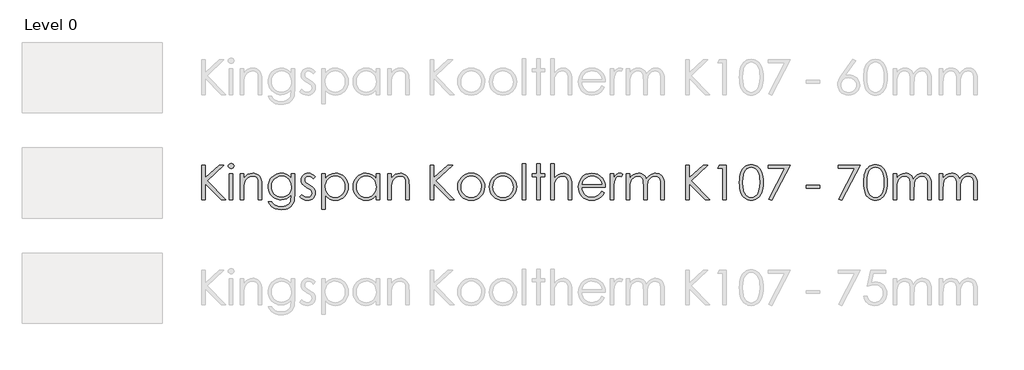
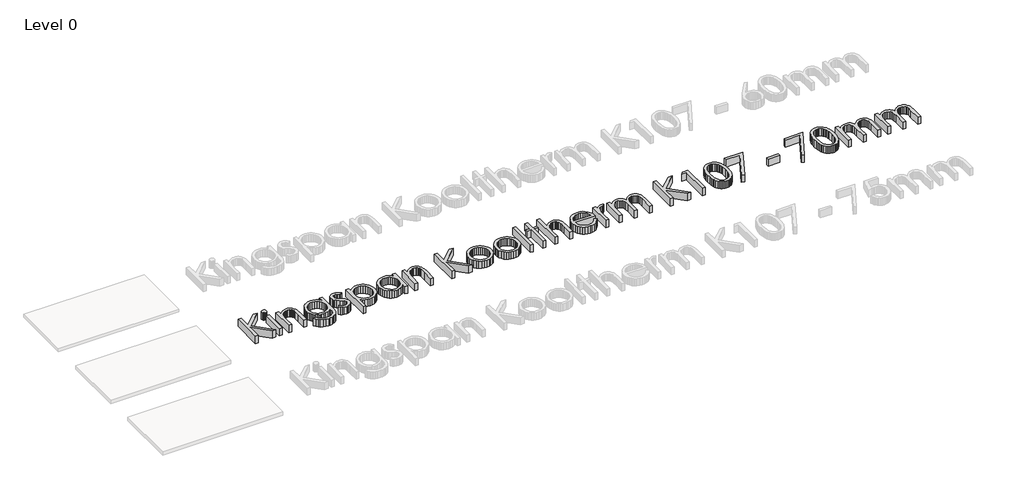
# One storey, part 9 of 13: 1 proxy.
"""IFC4 building model written with IfcOpenShell, lengths in millimetres."""

from ifc_helpers import new_model, si_unit, origin, origin_with_axes, place, context, project, spatial, polyline, outline, extrude, element, save

model = new_model("IFC4")

# Units and contexts
model_context = context("Model", 3, world=origin())
ifc_project = project(units=[si_unit("LENGTHUNIT", "METRE", prefix="MILLI")], contexts=[model_context])

# Site, building, storey
site = spatial("IfcSite", under=ifc_project)
building = spatial("IfcBuilding", under=site)
storey = spatial("IfcBuildingStorey", under=building, Name="Level 0", Elevation=0.0)

# Proxy
placement = place(None, origin())
element("IfcBuildingElementProxy", 1, Name="600mm KI_CenturyGothic", ObjectType="600mm KI_CenturyGothic", at=placement, inside=storey, context=model_context, shape_type="SweptSolid", body=[
    extrude(outline(polyline([(-3852.2663848, -1299.1034017), (-3792.944575, -1299.1034017), (-3792.944575, -1518.316027), (-3555.1938841, -1299.1034017), (-3471.6181051, -1299.1034017), (-3760.9664119, -1566.0515459), (-3441.9572002, -1892.3214999), (-3520.8984627, -1892.3214999), (-3792.944575, -1614.0960325), (-3792.944575, -1892.3214999), (-3852.2663848, -1892.3214999), (-3852.2663848, -1299.1034017)])), origin_with_axes(), (0.0, 0.0, 1.0), 150.0),
    extrude(outline(polyline([(-3348.1854852, -1269.4424967), (-3329.145347, -1272.7252792), (-3313.1176445, -1282.5736265), (-3302.226531, -1297.0178693), (-3298.5961598, -1314.088338), (-3302.226531, -1330.9270809), (-3313.1176445, -1345.2940817), (-3329.145347, -1355.142429), (-3348.1854852, -1358.4252115), (-3366.9938975, -1355.142429), (-3382.9443581, -1345.2940817), (-3393.8354717, -1330.9270809), (-3397.4658428, -1314.088338), (-3393.8354717, -1297.0178693), (-3382.9443581, -1282.5736265), (-3366.9938975, -1272.7252792), (-3348.1854852, -1269.4424967)])), origin_with_axes(), (0.0, 0.0, 1.0), 150.0),
    extrude(outline(polyline([(-3377.6919062, -1447.4079262), (-3318.3700964, -1447.4079262), (-3318.3700964, -1892.3214999), (-3377.6919062, -1892.3214999), (-3377.6919062, -1447.4079262)])), origin_with_axes(), (0.0, 0.0, 1.0), 150.0),
    extrude(outline(polyline([(-3189.8395084, -1447.4079262), (-3130.5176986, -1447.4079262), (-3130.5176986, -1526.5036726), (-3096.9946967, -1486.9944204), (-3060.0730495, -1459.303185), (-3019.7141359, -1442.9665147), (-2975.879335, -1437.5209579), (-2953.4357238, -1439.0995901), (-2932.2955704, -1443.8354865), (-2912.4588747, -1451.7286472), (-2893.9256368, -1462.7790723), (-2877.212412, -1476.5039994), (-2862.835756, -1492.4206667), (-2841.0921499, -1530.8292213), (-2833.6238199, -1555.2087086), (-2828.2892984, -1585.5551357), (-2824.0216812, -1664.1488095), (-2824.0216812, -1892.3214999), (-2883.343491, -1892.3214999), (-2883.343491, -1679.1337458), (-2883.343491, -1576.092998), (-2884.7290183, -1555.2956057), (-2889.8125035, -1537.2403023), (-2898.2849788, -1521.9270877), (-2910.1464442, -1509.355962), (-2924.7403432, -1499.5558909), (-2941.4101193, -1492.5558401), (-2980.977303, -1486.9557994), (-3005.3471351, -1489.1137461), (-3028.4038541, -1495.5875862), (-3050.1474602, -1506.3773197), (-3070.5779533, -1521.4829466), (-3088.6622225, -1539.7651482), (-3103.3671568, -1560.084606), (-3114.6927562, -1582.44132), (-3122.6390208, -1606.8352901), (-3128.5480292, -1653.9142525), (-3130.5176986, -1728.4141035), (-3130.5176986, -1892.3214999), (-3189.8395084, -1892.3214999), (-3189.8395084, -1447.4079262)])), origin_with_axes(), (0.0, 0.0, 1.0), 150.0),
    extrude(outline(polyline([(-2319.7862977, -1447.4079262), (-2260.4644879, -1447.4079262), (-2260.4644879, -1798.395301), (-2264.5196897, -1878.6496765), (-2269.588692, -1909.4499001), (-2276.6852953, -1934.0321474), (-2289.9371156, -1962.6454585), (-2307.2924139, -1987.7732271), (-2328.7511904, -2009.4154531), (-2354.3134448, -2027.5721366), (-2383.3226209, -2041.9343098), (-2415.122162, -2052.1930049), (-2449.7120682, -2058.348222), (-2487.0923395, -2060.3999611), (-2541.0458345, -2056.3833802), (-2589.206184, -2044.3336376), (-2630.260275, -2025.5059147), (-2662.8949946, -2001.1553932), (-2690.2000204, -1967.8061856), (-2715.2650299, -1921.9824048), (-2655.94322, -1921.9824048), (-2642.4355358, -1943.151524), (-2627.0933555, -1961.3951046), (-2609.9166791, -1976.7131468), (-2590.9055067, -1989.1056506), (-2569.7894914, -1998.6691682), (-2546.2982864, -2005.5002523), (-2492.1903075, -2010.9651195), (-2438.5071593, -2005.6354257), (-2415.083541, -1998.9733084), (-2393.93856, -1989.6463441), (-2359.6624492, -1965.6047903), (-2336.8567664, -1936.1176798), (-2329.3884364, -1917.4782342), (-2324.0539149, -1893.7697863), (-2319.7862977, -1831.1458835), (-2319.7862977, -1808.4367532), (-2354.757586, -1844.2190818), (-2396.6420279, -1870.6165148), (-2443.392712, -1886.8952536), (-2492.9627269, -1892.3214999), (-2522.4063889, -1890.4242447), (-2550.9521133, -1884.7324793), (-2578.5999001, -1875.2462036), (-2605.3497494, -1861.9654175), (-2630.1540674, -1845.4742634), (-2651.9652601, -1826.3568832), (-2670.7833277, -1804.6132772), (-2686.6082702, -1780.2434451), (-2699.1456025, -1753.9280817), (-2708.1008399, -1726.3478816), (-2713.4739824, -1697.5028447), (-2715.2650299, -1667.392971), (-2713.3967404, -1637.1044753), (-2707.7918722, -1607.8780563), (-2698.4504251, -1579.713714), (-2685.3723991, -1552.6114483), (-2668.9971079, -1527.4257483), (-2649.7638648, -1505.0111029), (-2627.67267, -1485.367512), (-2602.7235235, -1468.4949758), (-2575.9833294, -1454.943843), (-2548.5189922, -1445.2644624), (-2520.3305117, -1439.456834), (-2491.4178881, -1437.5209579), (-2444.5320306, -1442.4644421), (-2400.8903346, -1457.2948945), (-2359.6045177, -1483.8661218), (-2319.7862977, -1524.0319306), (-2319.7862977, -1447.4079262)]), holes=[polyline([(-2484.1571458, -1486.9557994), (-2529.0154023, -1492.9806707), (-2570.5908765, -1511.0552847), (-2606.2187212, -1539.7699758), (-2633.2340897, -1577.7150788), (-2650.2659375, -1621.9940208), (-2655.94322, -1669.7102292), (-2653.0080263, -1705.6229036), (-2644.2024452, -1738.2817613), (-2629.5264766, -1767.6868023), (-2608.9801206, -1793.8380266), (-2583.7606272, -1815.296803), (-2555.0652466, -1830.6245004), (-2522.8939786, -1839.8211189), (-2487.2468234, -1842.8866584), (-2451.3244937, -1839.845257), (-2419.1001219, -1830.7210528), (-2390.573708, -1815.5140459), (-2365.7452519, -1794.2242363), (-2345.6382095, -1767.9812872), (-2331.2760363, -1737.9148621), (-2322.6587323, -1704.024961), (-2319.7862977, -1666.3115838), (-2325.0773706, -1617.6105407), (-2340.9505892, -1574.3936754), (-2366.4983608, -1538.1672056), (-2400.8130926, -1510.4373492), (-2440.9982119, -1492.8261869), (-2484.1571458, -1486.9557994)])]), origin_with_axes(), (0.0, 0.0, 1.0), 150.0),
    extrude(outline(polyline([(-1904.5336289, -1498.6965743), (-1940.9918246, -1536.390641), (-1962.9575012, -1514.7628978), (-1984.6721416, -1499.3145098), (-2006.1357456, -1490.045477), (-2027.3483133, -1486.9557994), (-2052.181597, -1491.6289368), (-2073.2300256, -1505.6483489), (-2087.5970264, -1525.8857371), (-2092.3860267, -1549.212803), (-2088.4466878, -1570.7633042), (-2076.628671, -1591.2324183), (-2052.0657341, -1613.400855), (-2010.2006027, -1639.122421), (-1958.3326401, -1671.9888664), (-1939.8428507, -1687.8138088), (-1926.315856, -1703.2332311), (-1909.9791857, -1735.9065716), (-1904.5336289, -1772.4420092), (-1906.9474396, -1798.5884059), (-1914.1888714, -1822.6492701), (-1926.2579245, -1844.624602), (-1943.1545989, -1864.5144015), (-1963.6719892, -1881.0055557), (-1986.6031901, -1892.7849515), (-2011.9482016, -1899.852589), (-2039.7070237, -1902.2084682), (-2077.4397114, -1898.3270607), (-2113.3958344, -1886.6828383), (-2145.4512394, -1868.2027042), (-2171.4817731, -1843.8135617), (-2135.7959969, -1803.3387852), (-2114.0041146, -1824.9665283), (-2091.5749863, -1840.4149163), (-2068.5086121, -1849.6839491), (-2044.8049918, -1852.7736267), (-2013.637869, -1847.1349651), (-1987.4914724, -1830.2189802), (-1969.7644472, -1805.6560434), (-1963.8554388, -1777.0765256), (-1967.7561567, -1753.2860081), (-1979.4583106, -1732.2762005), (-2005.0253927, -1710.5712154), (-2050.2119275, -1683.7682622), (-2099.762632, -1653.1032121), (-2117.441381, -1637.9444814), (-2130.3890611, -1622.9016136), (-2146.3781427, -1590.7689666), (-2151.7078365, -1554.310771), (-2149.5305794, -1530.2643896), (-2142.9988078, -1508.3325063), (-2132.1125219, -1488.5151211), (-2116.8717217, -1470.812234), (-2098.309518, -1456.2473007), (-2077.4590218, -1445.8437769), (-2054.3202332, -1439.6016627), (-2028.8931521, -1437.5209579), (-1997.9481, -1441.3444339), (-1966.9064954, -1452.814862), (-1935.7683384, -1471.9322421), (-1904.5336289, -1498.6965743)])), origin_with_axes(), (0.0, 0.0, 1.0), 150.0),
    extrude(outline(polyline([(-1795.7769776, -1447.4079262), (-1736.4551678, -1447.4079262), (-1736.4551678, -1528.5119631), (-1700.9238754, -1488.2689124), (-1660.4490989, -1459.9211205), (-1614.9922173, -1443.1209986), (-1564.5146096, -1437.5209579), (-1520.0618732, -1441.7596094), (-1478.9305402, -1454.4755637), (-1441.1206107, -1475.668821), (-1406.6320845, -1505.3393811), (-1377.9077381, -1540.9768811), (-1357.3903478, -1580.070958), (-1345.0799137, -1622.6216116), (-1340.9764356, -1668.628842), (-1345.0412927, -1715.5291824), (-1357.235864, -1758.7508754), (-1377.5601494, -1798.293921), (-1406.014149, -1834.1583192), (-1440.2130179, -1863.9302594), (-1477.7719111, -1885.1959309), (-1518.6908288, -1897.9553339), (-1562.9697708, -1902.2084682), (-1612.6170277, -1896.743601), (-1658.0545988, -1880.3489992), (-1699.3211052, -1853.1019049), (-1736.4551678, -1815.07956), (-1736.4551678, -2050.5129928), (-1795.7769776, -2050.5129928), (-1795.7769776, -1447.4079262)]), holes=[polyline([(-1568.5311905, -1486.9557994), (-1602.5852307, -1490.2530647), (-1633.8392507, -1500.1448607), (-1662.2932503, -1516.6311872), (-1687.9472295, -1539.7120444), (-1709.1694525, -1567.6977647), (-1724.3281832, -1598.8986808), (-1733.4234216, -1633.3147926), (-1736.4551678, -1670.9461002), (-1731.048232, -1719.8016272), (-1714.8274246, -1763.4819442), (-1688.5265441, -1800.3263495), (-1652.8793888, -1828.6741414), (-1611.4390881, -1846.7487554), (-1567.7587711, -1852.7736267), (-1525.0632888, -1846.7101344), (-1485.0326535, -1828.5196576), (-1450.2544701, -1799.4187567), (-1423.3163435, -1760.6239924), (-1406.05277, -1715.9588407), (-1400.2982454, -1669.2467775), (-1405.9948385, -1622.3029886), (-1423.0846177, -1577.8695627), (-1449.8103289, -1539.5189395), (-1484.414718, -1510.8235589), (-1524.7157001, -1492.9227393), (-1568.5311905, -1486.9557994)])]), origin_with_axes(), (0.0, 0.0, 1.0), 150.0),
    extrude(outline(polyline([(-807.0801472, -1447.4079262), (-807.0801472, -1892.3214999), (-866.401957, -1892.3214999), (-866.401957, -1816.4699149), (-903.4780882, -1854.3184655), (-944.8797679, -1881.0441767), (-990.4525125, -1896.9173953), (-1040.0418379, -1902.2084682), (-1084.3159523, -1897.9553339), (-1125.2203871, -1885.1959309), (-1162.7551422, -1863.9302594), (-1196.9202178, -1834.1583192), (-1225.340424, -1798.293921), (-1245.6405713, -1758.7508754), (-1257.8206597, -1715.5291824), (-1261.8806892, -1668.628842), (-1257.7820388, -1622.6216116), (-1245.4860875, -1580.070958), (-1224.9928353, -1540.9768811), (-1196.3022822, -1505.3393811), (-1161.8475494, -1475.668821), (-1124.061758, -1454.4755637), (-1082.9449079, -1441.7596094), (-1038.4969991, -1437.5209579), (-987.7490446, -1443.1209986), (-942.0990581, -1459.9211205), (-921.2051134, -1472.6081091), (-901.6242816, -1488.2689124), (-866.401957, -1528.5119631), (-866.401957, -1447.4079262), (-807.0801472, -1447.4079262)]), holes=[polyline([(-1034.3259343, -1486.9557994), (-1078.1414247, -1492.9227393), (-1118.4424068, -1510.8235589), (-1153.0467959, -1539.5189395), (-1179.7725071, -1577.8695627), (-1196.8622863, -1622.3029886), (-1202.5588794, -1669.2467775), (-1196.8043548, -1715.9588407), (-1179.5407813, -1760.6239924), (-1152.6026548, -1799.4187567), (-1117.8244713, -1828.5196576), (-1077.6779731, -1846.7101344), (-1034.6349021, -1852.7736267), (-991.0125165, -1846.7487554), (-949.7460102, -1828.6741414), (-914.2726493, -1800.3263495), (-888.0297002, -1763.4819442), (-871.8088928, -1719.8016272), (-866.401957, -1670.9461002), (-869.4337032, -1633.3147926), (-878.5289416, -1598.8986808), (-893.6876723, -1567.6977647), (-914.9098953, -1539.7120444), (-940.5638746, -1516.6311872), (-969.0178742, -1500.1448607), (-1000.2718941, -1490.2530647), (-1034.3259343, -1486.9557994)])]), origin_with_axes(), (0.0, 0.0, 1.0), 150.0),
    extrude(outline(polyline([(-668.662591, -1447.4079262), (-609.3407811, -1447.4079262), (-609.3407811, -1526.5036726), (-575.8177792, -1486.9944204), (-538.896132, -1459.303185), (-498.5372184, -1442.9665147), (-454.7024175, -1437.5209579), (-432.2588064, -1439.0995901), (-411.1186529, -1443.8354865), (-391.2819572, -1451.7286472), (-372.7487193, -1462.7790723), (-356.0354946, -1476.5039994), (-341.6588385, -1492.4206667), (-319.9152324, -1530.8292213), (-312.4469024, -1555.2087086), (-307.1123809, -1585.5551357), (-302.8447637, -1664.1488095), (-302.8447637, -1892.3214999), (-362.1665735, -1892.3214999), (-362.1665735, -1679.1337458), (-362.1665735, -1576.092998), (-363.5521008, -1555.2956057), (-368.635586, -1537.2403023), (-377.1080613, -1521.9270877), (-388.9695267, -1509.355962), (-403.5634257, -1499.5558909), (-420.2332018, -1492.5558401), (-459.8003855, -1486.9557994), (-484.1702176, -1489.1137461), (-507.2269366, -1495.5875862), (-528.9705427, -1506.3773197), (-549.4010358, -1521.4829466), (-567.485305, -1539.7651482), (-582.1902393, -1560.084606), (-593.5158387, -1582.44132), (-601.4621033, -1606.8352901), (-607.3711117, -1653.9142525), (-609.3407811, -1728.4141035), (-609.3407811, -1892.3214999), (-668.662591, -1892.3214999), (-668.662591, -1447.4079262)])), origin_with_axes(), (0.0, 0.0, 1.0), 150.0),
    extrude(outline(polyline([(62.9730635, -1299.1034017), (122.2948734, -1299.1034017), (122.2948734, -1518.316027), (360.0455643, -1299.1034017), (443.6213432, -1299.1034017), (154.2730365, -1566.0515459), (473.2822481, -1892.3214999), (394.3409856, -1892.3214999), (122.2948734, -1614.0960325), (122.2948734, -1892.3214999), (62.9730635, -1892.3214999), (62.9730635, -1299.1034017)])), origin_with_axes(), (0.0, 0.0, 1.0), 150.0),
    extrude(outline(polyline([(760.1588128, -1437.5209579), (809.4681362, -1442.1458191), (854.3553585, -1456.0204025), (894.8204798, -1479.1447083), (930.8635, -1511.5187363), (957.7630055, -1546.7507161), (976.9769381, -1585.091684), (988.5052976, -1626.54164), (992.3480841, -1671.1005841), (988.283227, -1715.9153921), (976.0886558, -1757.8239721), (955.7643703, -1796.8263241), (927.3103707, -1832.9224481), (892.4742558, -1863.2350819), (853.0036246, -1884.8869632), (808.8984769, -1897.8780919), (760.1588128, -1902.2084682), (711.2839754, -1897.8780919), (667.0822753, -1884.8869632), (627.5537126, -1863.2350819), (592.6982872, -1832.9224481), (564.2442876, -1796.8263241), (543.9200022, -1757.8239721), (531.7254309, -1715.9153921), (527.6605738, -1671.1005841), (531.5033603, -1626.7347449), (543.0317198, -1585.4006518), (562.2456524, -1547.0983049), (589.145158, -1511.8277041), (625.2074886, -1479.3185026), (665.7305413, -1456.0976445), (710.7143161, -1442.1651295), (760.1588128, -1437.5209579)]), holes=[polyline([(760.004329, -1486.9557994), (725.7282181, -1490.3303067), (693.9624704, -1500.4538284), (664.7070856, -1517.3263647), (637.962064, -1540.9479154), (615.6584538, -1569.3584664), (599.7273037, -1600.5980035), (590.1686137, -1634.6665266), (586.9823836, -1671.5640357), (592.7948396, -1719.2995546), (610.2322075, -1763.6364281), (637.5758543, -1801.4270471), (673.1071466, -1829.5238028), (714.6439998, -1846.9611707), (760.004329, -1852.7736267), (805.3646581, -1846.9611707), (846.9015113, -1829.5238028), (882.4328037, -1801.4270471), (909.7764504, -1763.6364281), (927.2138183, -1719.2995546), (933.0262743, -1671.5640357), (929.8255614, -1634.6665266), (920.2234227, -1600.5980035), (904.2198583, -1569.3584664), (881.8148681, -1540.9479154), (854.9974321, -1517.3263647), (825.7565303, -1500.4538284), (794.0921625, -1490.3303067), (760.004329, -1486.9557994)])]), origin_with_axes(), (0.0, 0.0, 1.0), 150.0),
    extrude(outline(polyline([(1303.9420695, -1437.5209579), (1353.2513929, -1442.1458191), (1398.1386152, -1456.0204025), (1438.6037365, -1479.1447083), (1474.6467567, -1511.5187363), (1501.5462622, -1546.7507161), (1520.7601948, -1585.091684), (1532.2885543, -1626.54164), (1536.1313408, -1671.1005841), (1532.0664837, -1715.9153921), (1519.8719125, -1757.8239721), (1499.547627, -1796.8263241), (1471.0936274, -1832.9224481), (1436.2575126, -1863.2350819), (1396.7868813, -1884.8869632), (1352.6817336, -1897.8780919), (1303.9420695, -1902.2084682), (1255.0672321, -1897.8780919), (1210.865532, -1884.8869632), (1171.3369693, -1863.2350819), (1136.4815439, -1832.9224481), (1108.0275443, -1796.8263241), (1087.7032589, -1757.8239721), (1075.5086876, -1715.9153921), (1071.4438305, -1671.1005841), (1075.286617, -1626.7347449), (1086.8149766, -1585.4006518), (1106.0289091, -1547.0983049), (1132.9284147, -1511.8277041), (1168.9907453, -1479.3185026), (1209.5137981, -1456.0976445), (1254.4975728, -1442.1651295), (1303.9420695, -1437.5209579)]), holes=[polyline([(1303.7875857, -1486.9557994), (1269.5114748, -1490.3303067), (1237.7457271, -1500.4538284), (1208.4903423, -1517.3263647), (1181.7453207, -1540.9479154), (1159.4417105, -1569.3584664), (1143.5105604, -1600.5980035), (1133.9518704, -1634.6665266), (1130.7656404, -1671.5640357), (1136.5780963, -1719.2995546), (1154.0154643, -1763.6364281), (1181.359111, -1801.4270471), (1216.8904033, -1829.5238028), (1258.4272565, -1846.9611707), (1303.7875857, -1852.7736267), (1349.1479149, -1846.9611707), (1390.684768, -1829.5238028), (1426.2160604, -1801.4270471), (1453.5597071, -1763.6364281), (1470.997075, -1719.2995546), (1476.809531, -1671.5640357), (1473.6088181, -1634.6665266), (1464.0066795, -1600.5980035), (1448.003115, -1569.3584664), (1425.5981249, -1540.9479154), (1398.7806889, -1517.3263647), (1369.539787, -1500.4538284), (1337.8754193, -1490.3303067), (1303.7875857, -1486.9557994)])]), origin_with_axes(), (0.0, 0.0, 1.0), 150.0),
    extrude(outline(polyline([(1635.0010238, -1279.3294651), (1694.3228337, -1279.3294651), (1694.3228337, -1892.3214999), (1635.0010238, -1892.3214999), (1635.0010238, -1279.3294651)])), origin_with_axes(), (0.0, 0.0, 1.0), 150.0),
    extrude(outline(polyline([(1882.1752314, -1279.3294651), (1941.4970413, -1279.3294651), (1941.4970413, -1447.4079262), (2020.5927877, -1447.4079262), (2020.5927877, -1496.8427677), (1941.4970413, -1496.8427677), (1941.4970413, -1892.3214999), (1882.1752314, -1892.3214999), (1882.1752314, -1496.8427677), (1803.079485, -1496.8427677), (1803.079485, -1447.4079262), (1882.1752314, -1447.4079262), (1882.1752314, -1279.3294651)])), origin_with_axes(), (0.0, 0.0, 1.0), 150.0),
    extrude(outline(polyline([(2119.4624707, -1279.3294651), (2178.7842806, -1279.3294651), (2178.7842806, -1528.0485114), (2212.5583188, -1488.3461544), (2249.6151394, -1460.0756044), (2289.9161216, -1443.1596195), (2333.4226442, -1437.5209579), (2355.8662553, -1439.0995901), (2377.0064088, -1443.8354865), (2396.8431044, -1451.7286472), (2415.3763424, -1462.7790723), (2432.0895671, -1476.4895166), (2446.4662232, -1492.3627352), (2468.2098293, -1530.5974955), (2475.6781593, -1554.9045684), (2481.0126808, -1585.2654784), (2485.280298, -1664.1488095), (2485.280298, -1892.3214999), (2425.9584882, -1892.3214999), (2425.9584882, -1679.1337458), (2424.5681332, -1614.752589), (2420.3970685, -1576.092998), (2406.879729, -1537.2403023), (2397.1665551, -1521.9270877), (2385.4837117, -1509.355962), (2371.840854, -1499.5558909), (2356.2476374, -1492.5558401), (2319.2101273, -1486.9557994), (2296.3416854, -1489.1137461), (2274.6994594, -1495.5875862), (2254.2834492, -1506.3773197), (2235.0936547, -1521.4829466), (2218.1052556, -1539.7651482), (2204.2934312, -1560.084606), (2193.6581816, -1582.44132), (2186.1995068, -1606.8352901), (2180.6380871, -1653.6825267), (2178.7842806, -1728.4141035), (2178.7842806, -1892.3214999), (2119.4624707, -1892.3214999), (2119.4624707, -1279.3294651)])), origin_with_axes(), (0.0, 0.0, 1.0), 150.0),
    extrude(outline(polyline([(2991.0605203, -1744.0169753), (3038.950523, -1769.1978477), (3013.3255094, -1811.0822896), (2984.0315038, -1844.0452875), (2950.952643, -1869.1296074), (2913.9730643, -1887.3780157), (2872.4941426, -1898.5008551), (2825.9172528, -1902.2084682), (2774.4258447, -1897.7767119), (2728.8627554, -1884.481443), (2689.227985, -1862.3226615), (2655.5215335, -1831.3003674), (2628.6220279, -1794.6973431), (2609.4080954, -1755.7963712), (2597.8797358, -1714.5974515), (2594.0369493, -1671.1005841), (2597.3197318, -1630.2202874), (2607.1680791, -1591.618628), (2623.5819913, -1555.2956057), (2646.5614684, -1521.2512207), (2682.7493173, -1484.6192308), (2724.5758277, -1458.4535236), (2772.0409998, -1442.7540993), (2825.1448334, -1437.5209579), (2879.7935059, -1442.8892727), (2928.6490329, -1458.9942172), (2971.7114143, -1485.8357913), (3008.9806503, -1523.4139951), (3030.4539096, -1555.585263), (3045.9022976, -1591.541386), (3055.3258143, -1631.2823641), (3058.7244596, -1674.8081972), (2653.3587591, -1674.8081972), (2657.095338, -1712.0629503), (2666.6057518, -1745.8128504), (2681.8900007, -1776.0578975), (2702.9480845, -1802.7980916), (2728.3124066, -1824.6623882), (2756.5153699, -1840.2797429), (2787.5569744, -1849.6501557), (2821.4372203, -1852.7736267), (2854.9602222, -1849.761191), (2887.5563208, -1840.7238841), (2917.2944677, -1826.6851615), (2942.2436143, -1808.668479), (2965.725164, -1782.5027719), (2991.0605203, -1744.0169753)]), holes=[polyline([(2999.4026498, -1625.3733557), (2984.9777175, -1582.8516678), (2965.1844704, -1549.8307385), (2939.0766947, -1524.3022774), (2905.7081767, -1504.257994), (2867.7630738, -1491.2813481), (2827.9255433, -1486.9557994), (2795.503239, -1489.6689226), (2765.4368139, -1497.808292), (2737.726268, -1511.3739077), (2712.3716012, -1530.3657696), (2695.8321708, -1548.179692), (2681.4362043, -1569.9522638), (2669.1837016, -1595.683485), (2659.0746627, -1625.3733557), (2999.4026498, -1625.3733557)])]), origin_with_axes(), (0.0, 0.0, 1.0), 150.0),
    extrude(outline(polyline([(3137.820206, -1447.4079262), (3197.1420159, -1447.4079262), (3197.1420159, -1511.8277041), (3222.6897875, -1478.7874643), (3249.589293, -1455.6728138), (3277.7632906, -1442.0589219), (3307.1345382, -1437.5209579), (3330.4616041, -1441.305813), (3355.3335087, -1452.6603781), (3325.8270877, -1494.6799934), (3297.2475699, -1486.9557994), (3270.8308265, -1492.9034288), (3245.3409863, -1510.7463169), (3223.2884125, -1541.1023993), (3207.183468, -1584.5896114), (3199.6523789, -1642.7141712), (3197.1420159, -1740.1548783), (3197.1420159, -1892.3214999), (3137.820206, -1892.3214999), (3137.820206, -1447.4079262)])), origin_with_axes(), (0.0, 0.0, 1.0), 150.0),
    extrude(outline(polyline([(3414.6553185, -1447.4079262), (3473.9771284, -1447.4079262), (3473.9771284, -1523.5684789), (3503.5607913, -1487.0716623), (3533.9168737, -1461.9294109), (3577.3268439, -1443.6230712), (3622.8995884, -1437.5209579), (3653.7384329, -1440.668567), (3682.9165757, -1450.1113941), (3708.6767627, -1464.7873627), (3729.2617397, -1483.634396), (3746.0425511, -1509.0663047), (3760.3902414, -1543.4968994), (3775.16759, -1519.0981017), (3791.6925376, -1497.808292), (3809.965084, -1479.6274704), (3829.9852293, -1464.5556369), (3851.2798666, -1452.7279648), (3873.375889, -1444.2796277), (3896.2732965, -1439.2106253), (3919.9720892, -1437.5209579), (3962.3006723, -1443.3334139), (3981.4952943, -1450.5989839), (3999.3768034, -1460.7707818), (4015.4914031, -1473.53984), (4029.385297, -1488.5971907), (4050.5109676, -1525.5767694), (4057.8103309, -1548.9521114), (4063.0241619, -1577.5219739), (4067.1952266, -1650.2452603), (4067.1952266, -1892.3214999), (4007.8734168, -1892.3214999), (4007.8734168, -1646.6921311), (4005.4209852, -1585.5744462), (3998.0636904, -1547.1272706), (3984.7587663, -1522.6608861), (3964.4634466, -1503.4855746), (3938.3942919, -1491.0882432), (3907.7678627, -1486.9557994), (3888.1194443, -1488.5054659), (3869.3399976, -1493.1544651), (3834.3880198, -1511.7504621), (3805.6540182, -1540.6968791), (3785.8800816, -1577.9468046), (3779.1889985, -1602.1042213), (3774.4096535, -1633.1747916), (3770.5861775, -1716.0553931), (3770.5861775, -1892.3214999), (3711.2643677, -1892.3214999), (3711.2643677, -1661.9860352), (3708.850557, -1593.530366), (3701.6091252, -1551.2983353), (3688.3621325, -1525.0553863), (3667.9316394, -1504.5669617), (3641.6114484, -1491.35859), (3610.6953619, -1486.9557994), (3573.7544042, -1492.9999812), (3539.2465676, -1511.1325266), (3510.2808401, -1539.499629), (3489.9662099, -1576.2474819), (3477.9743988, -1628.0768236), (3473.9771284, -1701.6883923), (3473.9771284, -1892.3214999), (3414.6553185, -1892.3214999), (3414.6553185, -1447.4079262)])), origin_with_axes(), (0.0, 0.0, 1.0), 150.0),
    extrude(outline(polyline([(4433.0130538, -1299.1034017), (4492.3348637, -1299.1034017), (4492.3348637, -1518.316027), (4730.0855546, -1299.1034017), (4813.6613335, -1299.1034017), (4524.3130268, -1566.0515459), (4843.3222385, -1892.3214999), (4764.3809759, -1892.3214999), (4492.3348637, -1614.0960325), (4492.3348637, -1892.3214999), (4433.0130538, -1892.3214999), (4433.0130538, -1299.1034017)])), origin_with_axes(), (0.0, 0.0, 1.0), 150.0),
    extrude(outline(polyline([(5010.6282802, -1299.1034017), (5125.1008351, -1299.1034017), (5125.1008351, -1892.3214999), (5065.7790253, -1892.3214999), (5065.7790253, -1348.5382432), (4976.7963106, -1348.5382432), (5010.6282802, -1299.1034017)])), origin_with_axes(), (0.0, 0.0, 1.0), 150.0),
    extrude(outline(polyline([(5352.5011061, -1595.8669347), (5354.0797383, -1541.4355052), (5358.8156347, -1493.5406748), (5366.7087954, -1452.1824436), (5377.7592204, -1417.3608116), (5391.6869077, -1387.7192172), (5408.2118552, -1361.9010988), (5427.334063, -1339.9064564), (5449.053531, -1321.73529), (5472.747496, -1307.5082902), (5497.793195, -1297.3461475), (5524.190628, -1291.2488619), (5551.9397949, -1289.2164334), (5580.1427582, -1291.2633448), (5606.974677, -1297.404079), (5632.4355515, -1307.638636), (5656.5253815, -1321.9670159), (5678.7083011, -1340.3843909), (5698.4484443, -1362.8859335), (5715.7458112, -1389.4716437), (5730.6004018, -1420.1415214), (5742.5294539, -1455.6583309), (5751.0502054, -1496.7848363), (5756.1626563, -1543.5210375), (5757.8668066, -1595.8669347), (5756.1867944, -1648.0535203), (5751.1467578, -1694.6207548), (5742.7466968, -1735.5686382), (5730.9866115, -1770.8971704), (5716.2768496, -1801.4222195), (5699.0277589, -1827.9596535), (5679.2393394, -1850.5094723), (5656.9115912, -1869.071676), (5632.6527944, -1883.5690226), (5607.0712295, -1893.9242701), (5580.1668963, -1900.1374187), (5551.9397949, -1902.2084682), (5524.2147661, -1900.2001778), (5497.8897474, -1894.1753064), (5472.964739, -1884.1338543), (5449.4397407, -1870.0758212), (5427.8651013, -1852.0398282), (5408.7911698, -1830.0644964), (5392.2179461, -1804.1498255), (5378.1454301, -1774.2958158), (5366.9260384, -1739.2762513), (5358.9121871, -1697.8649163), (5354.1038764, -1650.0618107), (5352.5011061, -1595.8669347)]), holes=[polyline([(5411.8229159, -1595.7124508), (5416.206396, -1684.038609), (5421.6857461, -1719.0195525), (5429.3568363, -1747.8790723), (5439.1713903, -1772.1185586), (5451.0811319, -1793.2394015), (5465.0860611, -1811.2416011), (5481.1861779, -1826.1251574), (5516.4857445, -1846.1115094), (5534.8886366, -1851.1080973), (5553.7936014, -1852.7736267), (5572.7854634, -1851.1418907), (5591.1400794, -1846.2466828), (5625.9375733, -1826.665851), (5641.694929, -1811.9898824), (5655.4439943, -1794.0697524), (5667.1847692, -1772.9054608), (5676.9172536, -1748.4970078), (5686.3793912, -1715.1381451), (5693.138061, -1678.5544313), (5698.5449967, -1595.7124508), (5693.7173755, -1514.1063413), (5687.682849, -1479.4150551), (5679.2345118, -1448.7982811), (5668.652366, -1422.135329), (5656.2164137, -1399.3055082), (5641.9266548, -1380.3088186), (5625.7830894, -1365.1452603), (5590.7152487, -1345.2747712), (5572.4861509, -1340.307149), (5553.7936014, -1338.6512749), (5534.7776014, -1340.307149), (5516.3505711, -1345.2747712), (5481.2634199, -1365.1452603), (5465.3177869, -1379.9564022), (5451.3900996, -1397.8958428), (5439.480358, -1418.9635819), (5429.5885621, -1443.1596195), (5421.8160919, -1472.0143117), (5416.2643275, -1507.0580143), (5411.8229159, -1595.7124508)])]), origin_with_axes(), (0.0, 0.0, 1.0), 150.0),
    extrude(outline(polyline([(5846.8495213, -1299.1034017), (6222.5543169, -1299.1034017), (5906.1713311, -1902.2084682), (5852.2564571, -1879.8083056), (6130.9453762, -1348.5382432), (5846.8495213, -1348.5382432), (5846.8495213, -1299.1034017)])), origin_with_axes(), (0.0, 0.0, 1.0), 150.0),
    extrude(outline(polyline([(6499.3894294, -1645.1472923), (6726.7897004, -1645.1472923), (6726.7897004, -1694.5821338), (6499.3894294, -1694.5821338), (6499.3894294, -1645.1472923)])), origin_with_axes(), (0.0, 0.0, 1.0), 150.0),
    extrude(outline(polyline([(7043.1726861, -1299.1034017), (7418.8774816, -1299.1034017), (7102.4944959, -1902.2084682), (7048.5796219, -1879.8083056), (7327.2685409, -1348.5382432), (7043.1726861, -1348.5382432), (7043.1726861, -1299.1034017)])), origin_with_axes(), (0.0, 0.0, 1.0), 150.0),
    extrude(outline(polyline([(7478.1992914, -1595.8669347), (7479.7779236, -1541.4355052), (7484.51382, -1493.5406748), (7492.4069808, -1452.1824436), (7503.4574058, -1417.3608116), (7517.3850931, -1387.7192172), (7533.9100406, -1361.9010988), (7553.0322483, -1339.9064564), (7574.7517163, -1321.73529), (7598.4456813, -1307.5082902), (7623.4913804, -1297.3461475), (7649.8888133, -1291.2488619), (7677.6379802, -1289.2164334), (7705.8409435, -1291.2633448), (7732.6728624, -1297.404079), (7758.1337368, -1307.638636), (7782.2235668, -1321.9670159), (7804.4064864, -1340.3843909), (7824.1466297, -1362.8859335), (7841.4439966, -1389.4716437), (7856.2985871, -1420.1415214), (7868.2276392, -1455.6583309), (7876.7483907, -1496.7848363), (7881.8608416, -1543.5210375), (7883.5649919, -1595.8669347), (7881.8849797, -1648.0535203), (7876.8449431, -1694.6207548), (7868.4448822, -1735.5686382), (7856.6847968, -1770.8971704), (7841.9750349, -1801.4222195), (7824.7259442, -1827.9596535), (7804.9375247, -1850.5094723), (7782.6097765, -1869.071676), (7758.3509797, -1883.5690226), (7732.7694148, -1893.9242701), (7705.8650816, -1900.1374187), (7677.6379802, -1902.2084682), (7649.9129514, -1900.2001778), (7623.5879328, -1894.1753064), (7598.6629243, -1884.1338543), (7575.137926, -1870.0758212), (7553.5632867, -1852.0398282), (7534.4893551, -1830.0644964), (7517.9161314, -1804.1498255), (7503.8436155, -1774.2958158), (7492.6242237, -1739.2762513), (7484.6103725, -1697.8649163), (7479.8020617, -1650.0618107), (7478.1992914, -1595.8669347)]), holes=[polyline([(7537.5211013, -1595.7124508), (7541.9045814, -1684.038609), (7547.3839315, -1719.0195525), (7555.0550216, -1747.8790723), (7564.8695756, -1772.1185586), (7576.7793172, -1793.2394015), (7590.7842464, -1811.2416011), (7606.8843633, -1826.1251574), (7642.1839298, -1846.1115094), (7660.586822, -1851.1080973), (7679.4917868, -1852.7736267), (7698.4836487, -1851.1418907), (7716.8382647, -1846.2466828), (7751.6357586, -1826.665851), (7767.3931143, -1811.9898824), (7781.1421796, -1794.0697524), (7792.8829545, -1772.9054608), (7802.6154389, -1748.4970078), (7812.0775766, -1715.1381451), (7818.8362463, -1678.5544313), (7824.2431821, -1595.7124508), (7819.4155608, -1514.1063413), (7813.3810343, -1479.4150551), (7804.9326971, -1448.7982811), (7794.3505514, -1422.135329), (7781.914599, -1399.3055082), (7767.6248402, -1380.3088186), (7751.4812747, -1365.1452603), (7716.413434, -1345.2747712), (7698.1843362, -1340.307149), (7679.4917868, -1338.6512749), (7660.4757867, -1340.307149), (7642.0487564, -1345.2747712), (7606.9616052, -1365.1452603), (7591.0159723, -1379.9564022), (7577.088285, -1397.8958428), (7565.1785434, -1418.9635819), (7555.2867474, -1443.1596195), (7547.5142772, -1472.0143117), (7541.9625128, -1507.0580143), (7537.5211013, -1595.7124508)])]), origin_with_axes(), (0.0, 0.0, 1.0), 150.0),
    extrude(outline(polyline([(7982.4346749, -1447.4079262), (8041.7564848, -1447.4079262), (8041.7564848, -1523.5684789), (8071.3401477, -1487.0716623), (8101.6962301, -1461.9294109), (8145.1062003, -1443.6230712), (8190.6789448, -1437.5209579), (8221.5177893, -1440.668567), (8250.6959321, -1450.1113941), (8276.4561191, -1464.7873627), (8297.0410961, -1483.634396), (8313.8219075, -1509.0663047), (8328.1695978, -1543.4968994), (8342.9469464, -1519.0981017), (8359.471894, -1497.808292), (8377.7444404, -1479.6274704), (8397.7645856, -1464.5556369), (8419.0592229, -1452.7279648), (8441.1552454, -1444.2796277), (8464.0526529, -1439.2106253), (8487.7514456, -1437.5209579), (8530.0800287, -1443.3334139), (8549.2746507, -1450.5989839), (8567.1561598, -1460.7707818), (8583.2707595, -1473.53984), (8597.1646534, -1488.5971907), (8618.290324, -1525.5767694), (8625.5896873, -1548.9521114), (8630.8035182, -1577.5219739), (8634.974583, -1650.2452603), (8634.974583, -1892.3214999), (8575.6527732, -1892.3214999), (8575.6527732, -1646.6921311), (8573.2003416, -1585.5744462), (8565.8430468, -1547.1272706), (8552.5381227, -1522.6608861), (8532.242803, -1503.4855746), (8506.1736483, -1491.0882432), (8475.5472191, -1486.9557994), (8455.8988006, -1488.5054659), (8437.119354, -1493.1544651), (8402.1673762, -1511.7504621), (8373.4333746, -1540.6968791), (8353.659438, -1577.9468046), (8346.9683549, -1602.1042213), (8342.1890099, -1633.1747916), (8338.3655339, -1716.0553931), (8338.3655339, -1892.3214999), (8279.0437241, -1892.3214999), (8279.0437241, -1661.9860352), (8276.6299134, -1593.530366), (8269.3884816, -1551.2983353), (8256.1414889, -1525.0553863), (8235.7109958, -1504.5669617), (8209.3908048, -1491.35859), (8178.4747183, -1486.9557994), (8141.5337606, -1492.9999812), (8107.025924, -1511.1325266), (8078.0601965, -1539.499629), (8057.7455663, -1576.2474819), (8045.7537552, -1628.0768236), (8041.7564848, -1701.6883923), (8041.7564848, -1892.3214999), (7982.4346749, -1892.3214999), (7982.4346749, -1447.4079262)])), origin_with_axes(), (0.0, 0.0, 1.0), 150.0),
    extrude(outline(polyline([(8773.3921393, -1447.4079262), (8832.7139491, -1447.4079262), (8832.7139491, -1523.5684789), (8862.2976121, -1487.0716623), (8892.6536944, -1461.9294109), (8936.0636646, -1443.6230712), (8981.6364092, -1437.5209579), (9012.4752537, -1440.668567), (9041.6533964, -1450.1113941), (9067.4135834, -1464.7873627), (9087.9985604, -1483.634396), (9104.7793718, -1509.0663047), (9119.1270621, -1543.4968994), (9133.9044108, -1519.0981017), (9150.4293583, -1497.808292), (9168.7019047, -1479.6274704), (9188.72205, -1464.5556369), (9210.0166873, -1452.7279648), (9232.1127097, -1444.2796277), (9255.0101172, -1439.2106253), (9278.7089099, -1437.5209579), (9321.037493, -1443.3334139), (9340.232115, -1450.5989839), (9358.1136241, -1460.7707818), (9374.2282238, -1473.53984), (9388.1221177, -1488.5971907), (9409.2477883, -1525.5767694), (9416.5471516, -1548.9521114), (9421.7609826, -1577.5219739), (9425.9320473, -1650.2452603), (9425.9320473, -1892.3214999), (9366.6102375, -1892.3214999), (9366.6102375, -1646.6921311), (9364.1578059, -1585.5744462), (9356.8005111, -1547.1272706), (9343.495587, -1522.6608861), (9323.2002673, -1503.4855746), (9297.1311126, -1491.0882432), (9266.5046834, -1486.9557994), (9246.856265, -1488.5054659), (9228.0768183, -1493.1544651), (9193.1248405, -1511.7504621), (9164.3908389, -1540.6968791), (9144.6169023, -1577.9468046), (9137.9258192, -1602.1042213), (9133.1464742, -1633.1747916), (9129.3229982, -1716.0553931), (9129.3229982, -1892.3214999), (9070.0011884, -1892.3214999), (9070.0011884, -1661.9860352), (9067.5873778, -1593.530366), (9060.3459459, -1551.2983353), (9047.0989532, -1525.0553863), (9026.6684601, -1504.5669617), (9000.3482691, -1491.35859), (8969.4321827, -1486.9557994), (8932.4912249, -1492.9999812), (8897.9833883, -1511.1325266), (8869.0176608, -1539.499629), (8848.7030306, -1576.2474819), (8836.7112195, -1628.0768236), (8832.7139491, -1701.6883923), (8832.7139491, -1892.3214999), (8773.3921393, -1892.3214999), (8773.3921393, -1447.4079262)])), origin_with_axes(), (0.0, 0.0, 1.0), 150.0),
])

save(model, "model.ifc")
